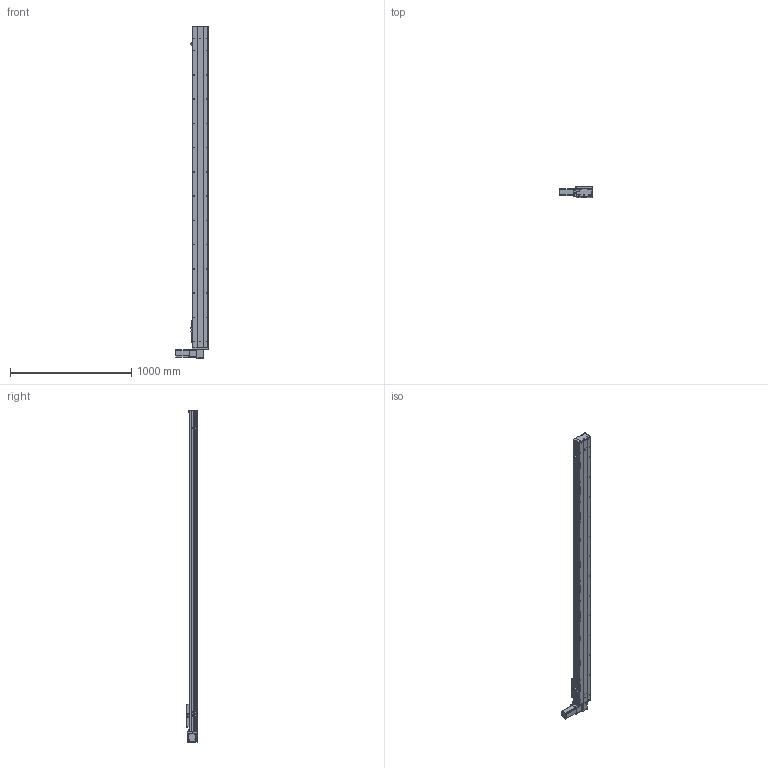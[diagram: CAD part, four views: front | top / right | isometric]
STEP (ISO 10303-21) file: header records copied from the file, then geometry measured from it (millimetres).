
FILE_DESCRIPTION (( 'STEP AP203' ), '1' );
FILE_NAME ('Y135CB-D90-S2350-BD-P400W.STEP', '2020-02-19T06:12:07', ( '微软用户' ), ( '微软中国' ), 'SwSTEP 2.0', 'SolidWorks 2017', '' );
FILE_SCHEMA (( 'CONFIG_CONTROL_DESIGN' ));
Length unit declared in the file: millimetre
Products named in the file (16): 135CB---遴掛极.-; Y10B--々湍喘謫眊--666; san松下电机400不带刹车----; 35CB---喘謫眊楊擘啣; 0B-薊粣ん眊; 5CB --掛极耜裔啣-; Y135CB-D90-S2350-BD-P400W; C-詩湍揤踡え-陔; 135CB--詩湍-CE; Y100-135俋离換覜ん--; Y135C-陔俋离換覜結え-; 5C--俋欶; 0B-埴倛裔啣; Y135CB-耜裔; C-雄赽釱--; 0B-源倛裔啣
Assembly tree (19 placements, depth 2):
  Y135CB-D90-S2350-BD-P400W
    Y135CB-耜裔
    135CB---遴掛极.-
    35CB---喘謫眊楊擘啣
    0B-埴倛裔啣
    0B-源倛裔啣
    san松下电机400不带刹车----
    5CB --掛极耜裔啣-  x2
    C-詩湍揤踡え-陔  x2
    135CB--詩湍-CE
    Y100-135俋离換覜ん--  x3
    Y135C-陔俋离換覜結え-
    5C--俋欶
    C-雄赽釱--
    Y10B--々湍喘謫眊--666
    0B-薊粣ん眊
Bounding box: 272 x 91 x 2738 mm (x, y, z)
Volume: 7892565.6 mm3; surface area: 3079928.4 mm2
Topology: 19 solids, 19 shells, 883 faces, 2392 edges, 1584 vertices
Faces by surface type: cylinder 452, plane 415, cone 16
Entity records: 27420 total; most frequent: DIRECTION 4572, CARTESIAN_POINT 4555, ORIENTED_EDGE 4260, EDGE_CURVE 2130, AXIS2_PLACEMENT_3D 1685, VERTEX_POINT 1412, LINE 1202, VECTOR 1202
